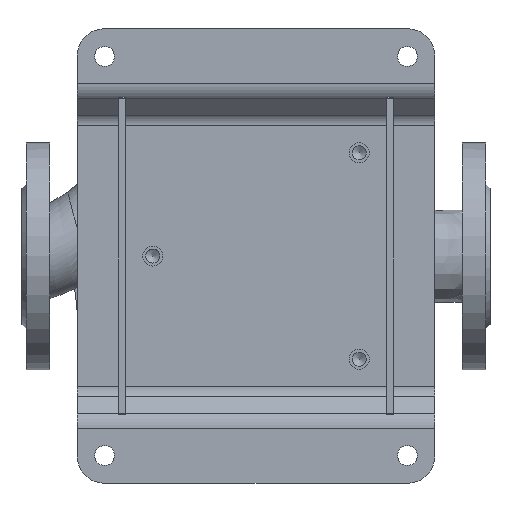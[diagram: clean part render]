
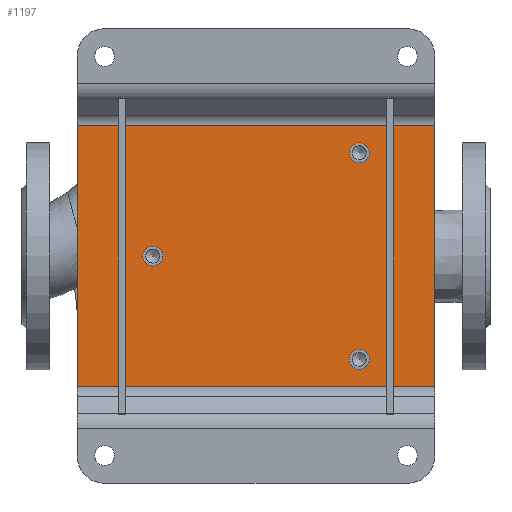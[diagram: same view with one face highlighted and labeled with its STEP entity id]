
A CAD part, top view. The second image highlights one B-rep face of the part: STEP entity #1197.
In plain terms, the highlighted planar face has unit normal (0, 0, 1) as drawn and (0, -1, 0) by its records, which use the part's own axes.
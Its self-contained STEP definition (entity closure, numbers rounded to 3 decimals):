
#173 = VERTEX_POINT ( 'NONE', #15231 ) ;
#645 = CARTESIAN_POINT ( 'NONE',  ( -95., -5., -130. ) ) ;
#1197 = ADVANCED_FACE ( 'NONE', ( #19464, #1606, #25936, #7895 ), #32586, .T. ) ;
#1388 = VERTEX_POINT ( 'NONE', #14341 ) ;
#1606 = FACE_BOUND ( 'NONE', #16762, .T. ) ;
#1713 = CIRCLE ( 'NONE', #33368, 7.25 ) ;
#1803 = CARTESIAN_POINT ( 'NONE',  ( 95., -5., 130. ) ) ;
#3233 = EDGE_CURVE ( 'NONE', #37679, #37679, #1713, .T. ) ;
#3757 = EDGE_LOOP ( 'NONE', ( #14220 ) ) ;
#5914 = EDGE_CURVE ( 'NONE', #19181, #12343, #32072, .T. ) ;
#6792 = CARTESIAN_POINT ( 'NONE',  ( -95., -5., 130. ) ) ;
#7185 = ORIENTED_EDGE ( 'NONE', *, *, #7420, .F. ) ;
#7287 = DIRECTION ( 'NONE',  ( 0., 0., -1. ) ) ;
#7420 = EDGE_CURVE ( 'NONE', #25962, #25962, #8260, .T. ) ;
#7895 = FACE_OUTER_BOUND ( 'NONE', #38592, .T. ) ;
#8260 = CIRCLE ( 'NONE', #21852, 7.25 ) ;
#8314 = CARTESIAN_POINT ( 'NONE',  ( 0., -5., -82.25 ) ) ;
#8327 = VECTOR ( 'NONE', #39004, 1000. ) ;
#8778 = CARTESIAN_POINT ( 'NONE',  ( -95., -5., 130. ) ) ;
#8790 = CIRCLE ( 'NONE', #31415, 7.25 ) ;
#9188 = EDGE_CURVE ( 'NONE', #173, #37743, #19096, .T. ) ;
#9314 = VECTOR ( 'NONE', #9762, 1000. ) ;
#9762 = DIRECTION ( 'NONE',  ( 0., 0., 1. ) ) ;
#9878 = VECTOR ( 'NONE', #28603, 1000. ) ;
#10531 = DIRECTION ( 'NONE',  ( 0., -1., 0. ) ) ;
#12343 = VERTEX_POINT ( 'NONE', #1803 ) ;
#12655 = DIRECTION ( 'NONE',  ( 0., -1., 0. ) ) ;
#12697 = CARTESIAN_POINT ( 'NONE',  ( -75., -5., 75. ) ) ;
#13131 = ORIENTED_EDGE ( 'NONE', *, *, #5914, .F. ) ;
#13147 = CARTESIAN_POINT ( 'NONE',  ( 0., -5., 0. ) ) ;
#14220 = ORIENTED_EDGE ( 'NONE', *, *, #3233, .F. ) ;
#14341 = CARTESIAN_POINT ( 'NONE',  ( 75., -5., 67.75 ) ) ;
#14420 = EDGE_CURVE ( 'NONE', #37743, #19181, #19489, .T. ) ;
#15231 = CARTESIAN_POINT ( 'NONE',  ( 95., -5., -130. ) ) ;
#16009 = ORIENTED_EDGE ( 'NONE', *, *, #9188, .F. ) ;
#16762 = EDGE_LOOP ( 'NONE', ( #7185 ) ) ;
#18174 = VECTOR ( 'NONE', #19947, 1000. ) ;
#19075 = CARTESIAN_POINT ( 'NONE',  ( -75., -5., 67.75 ) ) ;
#19096 = LINE ( 'NONE', #645, #9878 ) ;
#19181 = VERTEX_POINT ( 'NONE', #8778 ) ;
#19464 = FACE_BOUND ( 'NONE', #27912, .T. ) ;
#19489 = LINE ( 'NONE', #25969, #9314 ) ;
#19947 = DIRECTION ( 'NONE',  ( 1., 0., 0. ) ) ;
#21852 = AXIS2_PLACEMENT_3D ( 'NONE', #34508, #12655, #28070 ) ;
#23975 = EDGE_CURVE ( 'NONE', #12343, #173, #32937, .T. ) ;
#24884 = ORIENTED_EDGE ( 'NONE', *, *, #23975, .F. ) ;
#25085 = DIRECTION ( 'NONE',  ( 0., -1., 0. ) ) ;
#25565 = AXIS2_PLACEMENT_3D ( 'NONE', #13147, #10531, #7287 ) ;
#25936 = FACE_BOUND ( 'NONE', #3757, .T. ) ;
#25962 = VERTEX_POINT ( 'NONE', #8314 ) ;
#25969 = CARTESIAN_POINT ( 'NONE',  ( -95., -5., 130. ) ) ;
#26008 = DIRECTION ( 'NONE',  ( 0., 0., -1. ) ) ;
#26535 = CARTESIAN_POINT ( 'NONE',  ( -95., -5., -130. ) ) ;
#27912 = EDGE_LOOP ( 'NONE', ( #27919 ) ) ;
#27919 = ORIENTED_EDGE ( 'NONE', *, *, #30213, .F. ) ;
#28070 = DIRECTION ( 'NONE',  ( 0., 0., -1. ) ) ;
#28603 = DIRECTION ( 'NONE',  ( -1., 0., 0. ) ) ;
#29902 = CARTESIAN_POINT ( 'NONE',  ( 95., -5., 130. ) ) ;
#30213 = EDGE_CURVE ( 'NONE', #1388, #1388, #8790, .T. ) ;
#31415 = AXIS2_PLACEMENT_3D ( 'NONE', #31428, #34664, #26008 ) ;
#31428 = CARTESIAN_POINT ( 'NONE',  ( 75., -5., 75. ) ) ;
#32072 = LINE ( 'NONE', #6792, #18174 ) ;
#32586 = PLANE ( 'NONE',  #25565 ) ;
#32937 = LINE ( 'NONE', #29902, #8327 ) ;
#33368 = AXIS2_PLACEMENT_3D ( 'NONE', #12697, #25085, #37395 ) ;
#34508 = CARTESIAN_POINT ( 'NONE',  ( 0., -5., -75. ) ) ;
#34664 = DIRECTION ( 'NONE',  ( 0., -1., 0. ) ) ;
#35481 = ORIENTED_EDGE ( 'NONE', *, *, #14420, .F. ) ;
#37395 = DIRECTION ( 'NONE',  ( 0., 0., -1. ) ) ;
#37679 = VERTEX_POINT ( 'NONE', #19075 ) ;
#37743 = VERTEX_POINT ( 'NONE', #26535 ) ;
#38592 = EDGE_LOOP ( 'NONE', ( #24884, #13131, #35481, #16009 ) ) ;
#39004 = DIRECTION ( 'NONE',  ( 0., 0., -1. ) ) ;
